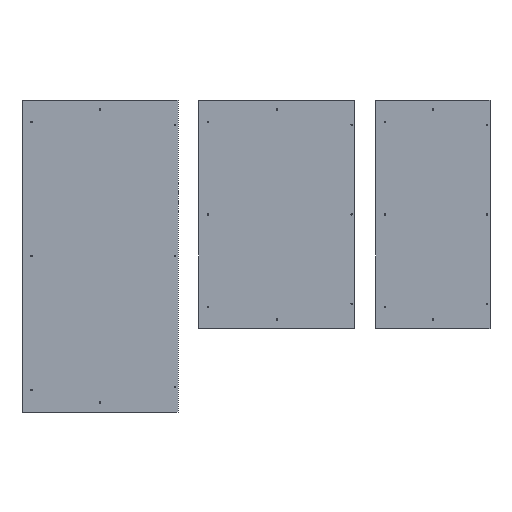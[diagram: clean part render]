
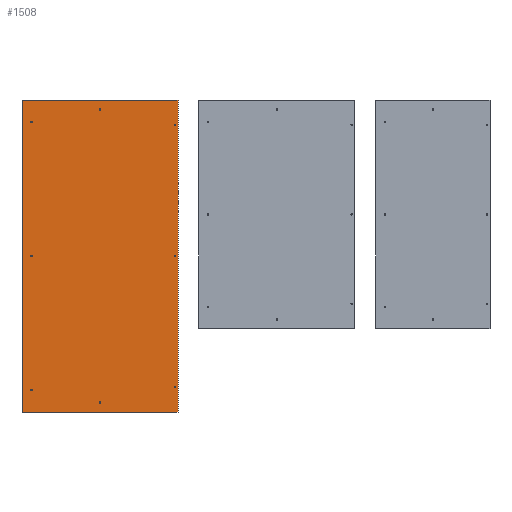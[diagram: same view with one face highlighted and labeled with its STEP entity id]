
A CAD part, front view. The second image highlights one B-rep face of the part: STEP entity #1508.
In plain terms, the highlighted planar face has unit normal (0, -1, 0).
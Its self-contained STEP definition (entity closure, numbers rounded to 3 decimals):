
#49=FACE_BOUND('',#281,.T.);
#50=FACE_BOUND('',#282,.T.);
#51=FACE_BOUND('',#283,.T.);
#52=FACE_BOUND('',#284,.T.);
#53=FACE_BOUND('',#285,.T.);
#54=FACE_BOUND('',#286,.T.);
#55=FACE_BOUND('',#287,.T.);
#56=FACE_BOUND('',#288,.T.);
#118=PLANE('',#1677);
#176=FACE_OUTER_BOUND('',#280,.T.);
#280=EDGE_LOOP('',(#1131,#1132,#1133,#1134,#1135,#1136));
#281=EDGE_LOOP('',(#1137));
#282=EDGE_LOOP('',(#1138));
#283=EDGE_LOOP('',(#1139));
#284=EDGE_LOOP('',(#1140));
#285=EDGE_LOOP('',(#1141));
#286=EDGE_LOOP('',(#1142));
#287=EDGE_LOOP('',(#1143));
#288=EDGE_LOOP('',(#1144));
#435=LINE('',#2447,#525);
#441=LINE('',#2458,#531);
#442=LINE('',#2462,#532);
#446=LINE('',#2470,#536);
#525=VECTOR('',#1950,1000.);
#531=VECTOR('',#1958,1000.);
#532=VECTOR('',#1961,1000.);
#536=VECTOR('',#1967,1000.);
#601=CIRCLE('',#1626,3.3);
#605=CIRCLE('',#1632,3.3);
#609=CIRCLE('',#1638,3.3);
#613=CIRCLE('',#1644,3.3);
#617=CIRCLE('',#1650,3.3);
#621=CIRCLE('',#1656,3.3);
#625=CIRCLE('',#1662,3.3);
#629=CIRCLE('',#1668,3.3);
#633=CIRCLE('',#1678,3.);
#634=CIRCLE('',#1679,3.);
#709=VERTEX_POINT('',#2355);
#713=VERTEX_POINT('',#2367);
#717=VERTEX_POINT('',#2379);
#721=VERTEX_POINT('',#2391);
#725=VERTEX_POINT('',#2403);
#729=VERTEX_POINT('',#2415);
#733=VERTEX_POINT('',#2427);
#737=VERTEX_POINT('',#2439);
#739=VERTEX_POINT('',#2445);
#740=VERTEX_POINT('',#2446);
#743=VERTEX_POINT('',#2454);
#745=VERTEX_POINT('',#2460);
#746=VERTEX_POINT('',#2461);
#749=VERTEX_POINT('',#2469);
#842=EDGE_CURVE('',#709,#709,#601,.T.);
#848=EDGE_CURVE('',#713,#713,#605,.T.);
#854=EDGE_CURVE('',#717,#717,#609,.T.);
#860=EDGE_CURVE('',#721,#721,#613,.T.);
#866=EDGE_CURVE('',#725,#725,#617,.T.);
#872=EDGE_CURVE('',#729,#729,#621,.T.);
#878=EDGE_CURVE('',#733,#733,#625,.T.);
#884=EDGE_CURVE('',#737,#737,#629,.T.);
#887=EDGE_CURVE('',#739,#740,#435,.T.);
#893=EDGE_CURVE('',#740,#743,#441,.T.);
#894=EDGE_CURVE('',#745,#746,#442,.T.);
#898=EDGE_CURVE('',#749,#739,#446,.T.);
#903=EDGE_CURVE('',#745,#743,#633,.T.);
#904=EDGE_CURVE('',#749,#746,#634,.T.);
#1131=ORIENTED_EDGE('',*,*,#903,.T.);
#1132=ORIENTED_EDGE('',*,*,#893,.F.);
#1133=ORIENTED_EDGE('',*,*,#887,.F.);
#1134=ORIENTED_EDGE('',*,*,#898,.F.);
#1135=ORIENTED_EDGE('',*,*,#904,.T.);
#1136=ORIENTED_EDGE('',*,*,#894,.F.);
#1137=ORIENTED_EDGE('',*,*,#842,.T.);
#1138=ORIENTED_EDGE('',*,*,#848,.T.);
#1139=ORIENTED_EDGE('',*,*,#854,.T.);
#1140=ORIENTED_EDGE('',*,*,#860,.T.);
#1141=ORIENTED_EDGE('',*,*,#866,.T.);
#1142=ORIENTED_EDGE('',*,*,#872,.T.);
#1143=ORIENTED_EDGE('',*,*,#878,.T.);
#1144=ORIENTED_EDGE('',*,*,#884,.T.);
#1508=ADVANCED_FACE('',(#176,#49,#50,#51,#52,#53,#54,#55,#56),#118,.F.);
#1626=AXIS2_PLACEMENT_3D('',#2356,#1845,#1846);
#1632=AXIS2_PLACEMENT_3D('',#2368,#1859,#1860);
#1638=AXIS2_PLACEMENT_3D('',#2380,#1873,#1874);
#1644=AXIS2_PLACEMENT_3D('',#2392,#1887,#1888);
#1650=AXIS2_PLACEMENT_3D('',#2404,#1901,#1902);
#1656=AXIS2_PLACEMENT_3D('',#2416,#1915,#1916);
#1662=AXIS2_PLACEMENT_3D('',#2428,#1929,#1930);
#1668=AXIS2_PLACEMENT_3D('',#2440,#1943,#1944);
#1677=AXIS2_PLACEMENT_3D('',#2477,#1976,#1977);
#1678=AXIS2_PLACEMENT_3D('',#2478,#1978,#1979);
#1679=AXIS2_PLACEMENT_3D('',#2479,#1980,#1981);
#1845=DIRECTION('center_axis',(0.,1.,0.));
#1846=DIRECTION('ref_axis',(0.,0.,1.));
#1859=DIRECTION('center_axis',(0.,1.,0.));
#1860=DIRECTION('ref_axis',(0.,0.,1.));
#1873=DIRECTION('center_axis',(0.,1.,0.));
#1874=DIRECTION('ref_axis',(0.,0.,1.));
#1887=DIRECTION('center_axis',(0.,1.,0.));
#1888=DIRECTION('ref_axis',(0.,0.,1.));
#1901=DIRECTION('center_axis',(0.,1.,0.));
#1902=DIRECTION('ref_axis',(0.,0.,1.));
#1915=DIRECTION('center_axis',(0.,1.,0.));
#1916=DIRECTION('ref_axis',(0.,0.,1.));
#1929=DIRECTION('center_axis',(0.,1.,0.));
#1930=DIRECTION('ref_axis',(0.,0.,1.));
#1943=DIRECTION('center_axis',(0.,1.,0.));
#1944=DIRECTION('ref_axis',(0.,0.,1.));
#1950=DIRECTION('',(0.,0.,-1.));
#1958=DIRECTION('',(-1.,0.,0.));
#1961=DIRECTION('',(0.,0.,1.));
#1967=DIRECTION('',(1.,0.,0.));
#1976=DIRECTION('center_axis',(0.,1.,0.));
#1977=DIRECTION('ref_axis',(0.,0.,1.));
#1978=DIRECTION('center_axis',(0.,-1.,0.));
#1979=DIRECTION('ref_axis',(0.,0.,1.));
#1980=DIRECTION('center_axis',(0.,-1.,0.));
#1981=DIRECTION('ref_axis',(0.,0.,1.));
#2355=CARTESIAN_POINT('',(360.,0.,-633.3));
#2356=CARTESIAN_POINT('Origin',(360.,0.,-630.));
#2367=CARTESIAN_POINT('',(360.,0.,-3.3));
#2368=CARTESIAN_POINT('Origin',(360.,0.,0.));
#2379=CARTESIAN_POINT('',(360.,0.,626.7));
#2380=CARTESIAN_POINT('Origin',(360.,0.,630.));
#2391=CARTESIAN_POINT('',(0.,0.,701.7));
#2392=CARTESIAN_POINT('Origin',(0.,0.,705.));
#2403=CARTESIAN_POINT('',(-330.,0.,641.7));
#2404=CARTESIAN_POINT('Origin',(-330.,0.,645.));
#2415=CARTESIAN_POINT('',(-330.,0.,-3.3));
#2416=CARTESIAN_POINT('Origin',(-330.,0.,0.));
#2427=CARTESIAN_POINT('',(-330.,0.,-648.3));
#2428=CARTESIAN_POINT('Origin',(-330.,0.,-645.));
#2439=CARTESIAN_POINT('',(0.,0.,-708.3));
#2440=CARTESIAN_POINT('Origin',(0.,0.,-705.));
#2445=CARTESIAN_POINT('',(375.,0.,750.));
#2446=CARTESIAN_POINT('',(375.,0.,-750.));
#2447=CARTESIAN_POINT('',(375.,0.,-750.));
#2454=CARTESIAN_POINT('',(-372.,0.,-750.));
#2458=CARTESIAN_POINT('',(-375.,0.,-750.));
#2460=CARTESIAN_POINT('',(-375.,0.,-747.));
#2461=CARTESIAN_POINT('',(-375.,0.,747.));
#2462=CARTESIAN_POINT('',(-375.,0.,-750.));
#2469=CARTESIAN_POINT('',(-372.,0.,750.));
#2470=CARTESIAN_POINT('',(-375.,0.,750.));
#2477=CARTESIAN_POINT('Origin',(0.,0.,0.));
#2478=CARTESIAN_POINT('Origin',(-372.,0.,-747.));
#2479=CARTESIAN_POINT('Origin',(-372.,0.,747.));
